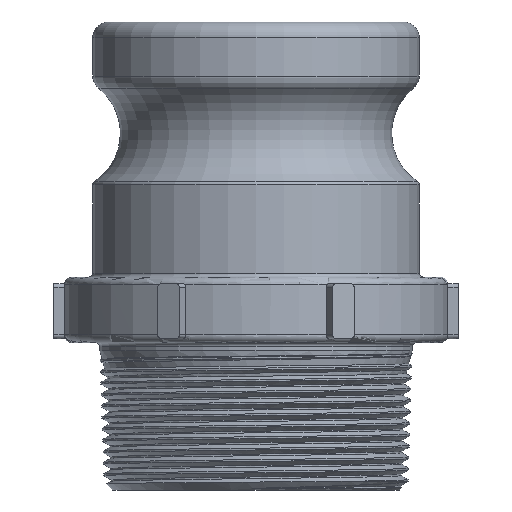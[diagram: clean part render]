
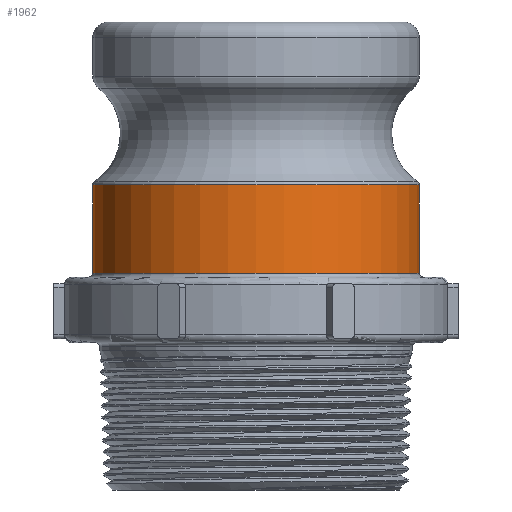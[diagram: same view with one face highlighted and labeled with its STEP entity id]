
A CAD part, front view. The second image highlights one B-rep face of the part: STEP entity #1962.
In plain terms, the highlighted cylindrical face has radius 31.547 mm (diameter 63.094 mm), a full revolution.
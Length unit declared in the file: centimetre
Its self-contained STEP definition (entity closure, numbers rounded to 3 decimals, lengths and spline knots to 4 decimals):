
#492=CYLINDRICAL_SURFACE('',#2083,3.1547);
#558=VERTEX_POINT('',#2684);
#560=VERTEX_POINT('',#2689);
#755=CIRCLE('',#2081,3.1547);
#757=CIRCLE('',#2084,3.1547);
#814=EDGE_CURVE('',#558,#558,#755,.T.);
#816=EDGE_CURVE('',#560,#560,#757,.T.);
#1112=ORIENTED_EDGE('',*,*,#816,.F.);
#1113=ORIENTED_EDGE('',*,*,#814,.F.);
#1700=EDGE_LOOP('',(#1112));
#1701=EDGE_LOOP('',(#1113));
#1833=FACE_BOUND('',#1700,.T.);
#1834=FACE_BOUND('',#1701,.T.);
#1962=ADVANCED_FACE('',(#1833,#1834),#492,.T.);
#2081=AXIS2_PLACEMENT_3D('',#2683,#2260,#2261);
#2083=AXIS2_PLACEMENT_3D('',#2687,#2264,#2265);
#2084=AXIS2_PLACEMENT_3D('',#2688,#2266,#2267);
#2260=DIRECTION('',(0.,0.,1.));
#2261=DIRECTION('',(0.,-3.155,0.));
#2264=DIRECTION('',(0.,0.,1.));
#2265=DIRECTION('',(0.,3.155,0.));
#2266=DIRECTION('',(0.,0.,-1.));
#2267=DIRECTION('',(-3.155,0.,0.));
#2683=CARTESIAN_POINT('',(0.,0.,-3.1489));
#2684=CARTESIAN_POINT('',(0.,3.1547,-3.1489));
#2687=CARTESIAN_POINT('',(0.,0.,-3.9286));
#2688=CARTESIAN_POINT('',(0.,0.,-4.8514));
#2689=CARTESIAN_POINT('',(3.1547,0.,-4.8514));
